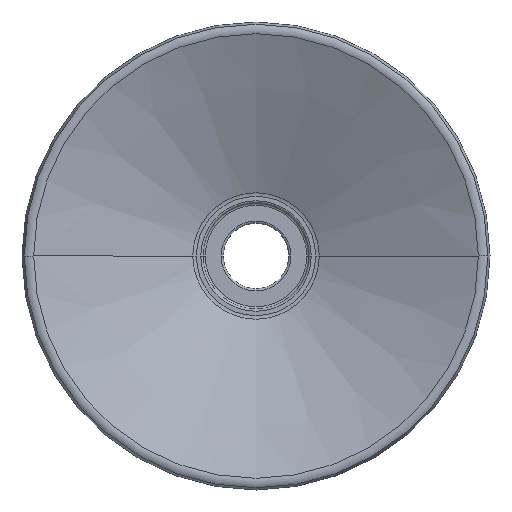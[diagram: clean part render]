
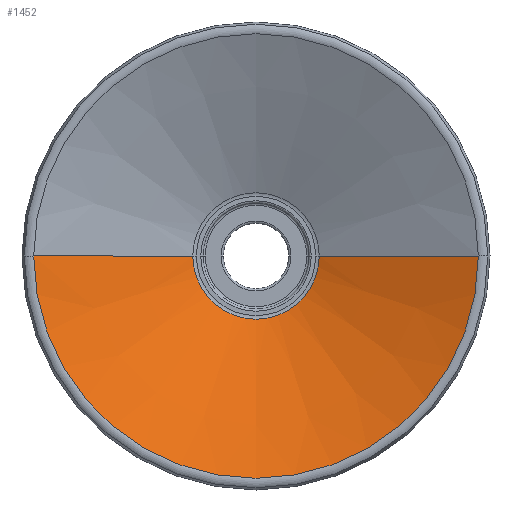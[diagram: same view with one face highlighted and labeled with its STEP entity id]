
A CAD part, front view. The second image highlights one B-rep face of the part: STEP entity #1452.
In plain terms, the highlighted conical face has half-angle 66.567 degrees and reference radius 5.606 mm.
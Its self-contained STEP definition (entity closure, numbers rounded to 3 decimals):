
#25 = AXIS2_PLACEMENT_3D ( 'NONE', #1850, #1826, #676 ) ;
#77 = CARTESIAN_POINT ( 'NONE',  ( 0., -12.83, 0. ) ) ;
#159 = ORIENTED_EDGE ( 'NONE', *, *, #576, .F. ) ;
#236 = DIRECTION ( 'NONE',  ( -1., 0., 0. ) ) ;
#256 = CARTESIAN_POINT ( 'NONE',  ( -5.606, -6.716, 0. ) ) ;
#319 = EDGE_CURVE ( 'NONE', #853, #1025, #1245, .T. ) ;
#429 = ORIENTED_EDGE ( 'NONE', *, *, #1104, .T. ) ;
#463 = CARTESIAN_POINT ( 'NONE',  ( -5.606, -6.716, 0. ) ) ;
#565 = CARTESIAN_POINT ( 'NONE',  ( 19.712, -12.83, 0. ) ) ;
#576 = EDGE_CURVE ( 'NONE', #1791, #853, #1017, .T. ) ;
#676 = DIRECTION ( 'NONE',  ( 1., 0., 0. ) ) ;
#717 = ORIENTED_EDGE ( 'NONE', *, *, #319, .F. ) ;
#748 = VECTOR ( 'NONE', #1632, 1000. ) ;
#781 = AXIS2_PLACEMENT_3D ( 'NONE', #77, #1228, #1232 ) ;
#792 = CARTESIAN_POINT ( 'NONE',  ( 0., -6.716, 0. ) ) ;
#833 = CARTESIAN_POINT ( 'NONE',  ( 5.606, -6.716, 0. ) ) ;
#853 = VERTEX_POINT ( 'NONE', #565 ) ;
#863 = CONICAL_SURFACE ( 'NONE', #25, 5.606, 1.162 ) ;
#1002 = VERTEX_POINT ( 'NONE', #256 ) ;
#1017 = LINE ( 'NONE', #1138, #748 ) ;
#1025 = VERTEX_POINT ( 'NONE', #1749 ) ;
#1104 = EDGE_CURVE ( 'NONE', #1002, #1025, #1873, .T. ) ;
#1130 = DIRECTION ( 'NONE',  ( -0.918, -0.398, 0. ) ) ;
#1138 = CARTESIAN_POINT ( 'NONE',  ( 5.606, -6.716, 0. ) ) ;
#1228 = DIRECTION ( 'NONE',  ( 0., 1., 0. ) ) ;
#1232 = DIRECTION ( 'NONE',  ( -1., 0., 0. ) ) ;
#1245 = CIRCLE ( 'NONE', #781, 19.712 ) ;
#1382 = VECTOR ( 'NONE', #1130, 1000. ) ;
#1452 = ADVANCED_FACE ( 'NONE', ( #1533 ), #863, .F. ) ;
#1519 = EDGE_LOOP ( 'NONE', ( #1675, #429, #717, #159 ) ) ;
#1533 = FACE_OUTER_BOUND ( 'NONE', #1519, .T. ) ;
#1632 = DIRECTION ( 'NONE',  ( 0.918, -0.398, 0. ) ) ;
#1675 = ORIENTED_EDGE ( 'NONE', *, *, #1696, .T. ) ;
#1696 = EDGE_CURVE ( 'NONE', #1791, #1002, #1870, .T. ) ;
#1749 = CARTESIAN_POINT ( 'NONE',  ( -19.712, -12.83, 0. ) ) ;
#1791 = VERTEX_POINT ( 'NONE', #833 ) ;
#1826 = DIRECTION ( 'NONE',  ( 0., -1., 0. ) ) ;
#1850 = CARTESIAN_POINT ( 'NONE',  ( 0., -6.716, 0. ) ) ;
#1870 = CIRCLE ( 'NONE', #2041, 5.606 ) ;
#1873 = LINE ( 'NONE', #463, #1382 ) ;
#1962 = DIRECTION ( 'NONE',  ( 0., 1., 0. ) ) ;
#2041 = AXIS2_PLACEMENT_3D ( 'NONE', #792, #1962, #236 ) ;
